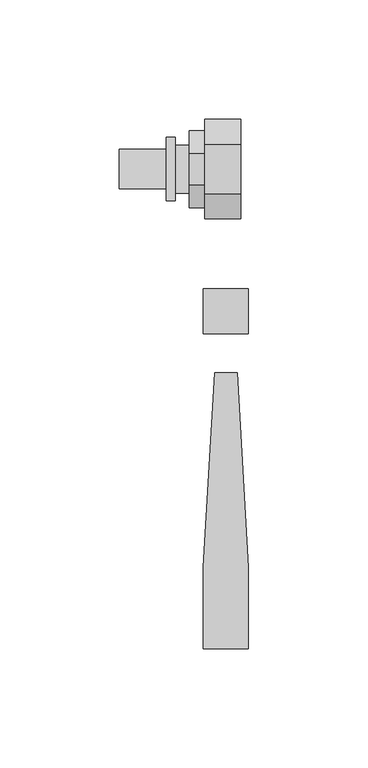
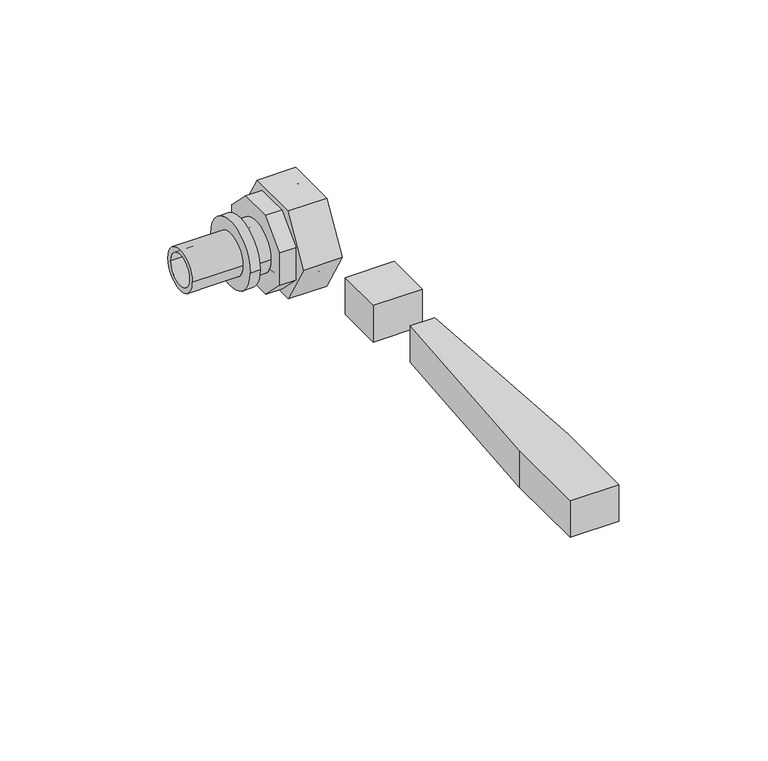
"""IFC4 building model written with IfcOpenShell, lengths in millimetres: pipe fitting geometry, RAUTITAN_LX_C.Coupling : RTI LX/PX C.C DN."""

import ifcopenshell
import ifcopenshell.guid

model = None  # the IFC model being written
_history = None  # IfcOwnerHistory: only IFC2X3 demands one
_inside = {}  # id of a spatial element -> (the spatial element, [elements in it])
_under = {}  # id of a project, library or spatial element -> (it, [spatial elements below it])
_declared = {}  # id of a project -> (the project, [libraries it declares])
_typed = {}  # id of a type object -> (the type object, [elements of that type])
_made_of = {}  # id of a material, layer set ... -> (it, [elements and type objects made of it])


def new_model(schema):
    """Start an empty IFC model of exactly this schema.

    Asked for "IFC4X3", IfcOpenShell would pick the latest addendum, in which some entities
    have other attributes; the version numbers below select the first issue.
    IFC2X3 requires an IfcOwnerHistory on every rooted entity: one is made here for all.
    """
    global model, _history
    if schema == "IFC4X3":
        model = ifcopenshell.file(schema_version=(4, 3, 0, 0))
    else:
        model = ifcopenshell.file(schema=schema)
    _inside.clear()
    _under.clear()
    _declared.clear()
    _typed.clear()
    _made_of.clear()
    _history = None
    if model.schema == "IFC2X3":
        org = make("IfcOrganization", Name="unknown")
        user = make(
            "IfcPersonAndOrganization",
            ThePerson=make("IfcPerson", FamilyName="unknown"),
            TheOrganization=org,
        )
        app = make(
            "IfcApplication",
            ApplicationDeveloper=org,
            Version="unknown",
            ApplicationFullName="unknown",
            ApplicationIdentifier="unknown",
        )
        _history = make(
            "IfcOwnerHistory",
            OwningUser=user,
            OwningApplication=app,
            ChangeAction="ADDED",
            CreationDate=0,
        )
    return model


def make(cls, **values):
    """One entity of the class cls with the attributes given. An attribute that is None is left unset."""
    return model.create_entity(
        cls, **{name: value for name, value in values.items() if value is not None}
    )


def rooted(cls, **values):
    """An entity with a GlobalId (a new one), such as an element, a storey or a relation."""
    return make(cls, GlobalId=ifcopenshell.guid.new(), OwnerHistory=_history, **values)


def si_unit(unit_type, name, prefix=None):
    """IfcSIUnit, for example si_unit("LENGTHUNIT", "METRE", prefix="MILLI")."""
    return make("IfcSIUnit", UnitType=unit_type, Prefix=prefix, Name=name)


def assignment(units):
    """IfcUnitAssignment: the units of a project."""
    return None if units is None else make("IfcUnitAssignment", Units=units)


def point(xyz):
    """IfcCartesianPoint."""
    return None if xyz is None else make("IfcCartesianPoint", Coordinates=xyz)


def direction(xyz):
    """IfcDirection."""
    return None if xyz is None else make("IfcDirection", DirectionRatios=xyz)


def frame(location, z_axis=None, x_axis=None):
    """IfcAxis2Placement3D, a coordinate frame: its origin and axes. An axis left out is left unset."""
    return make(
        "IfcAxis2Placement3D",
        Location=point(location),
        Axis=direction(z_axis),
        RefDirection=direction(x_axis),
    )


def frame_2d(location, x_axis=None):
    """IfcAxis2Placement2D, a coordinate frame in the plane: its origin and x axis."""
    return make(
        "IfcAxis2Placement2D", Location=point(location), RefDirection=direction(x_axis)
    )


def origin():
    """The frame at (0, 0, 0) with its axes left unset."""
    return frame((0.0, 0.0, 0.0))


def origin_with_axes():
    """The frame at (0, 0, 0) with the z axis (0, 0, 1) and the x axis (1, 0, 0) written out."""
    return frame((0.0, 0.0, 0.0), z_axis=(0.0, 0.0, 1.0), x_axis=(1.0, 0.0, 0.0))


def origin_2d():
    """The frame at (0, 0) in the plane with its x axis left unset."""
    return frame_2d((0.0, 0.0))


def place(relative_to, where):
    """IfcLocalPlacement: puts the frame where relative to a parent placement (None: the world)."""
    return make(
        "IfcLocalPlacement", PlacementRelTo=relative_to, RelativePlacement=where
    )


def context(
    kind, dimensions, precision=None, world=None, true_north=None, identifier=None
):
    """IfcGeometricRepresentationContext, for example the 3D "Model" context."""
    return make(
        "IfcGeometricRepresentationContext",
        ContextIdentifier=identifier,
        ContextType=kind,
        CoordinateSpaceDimension=dimensions,
        Precision=precision,
        WorldCoordinateSystem=world,
        TrueNorth=true_north,
    )


def project(units=None, contexts=None):
    """IfcProject with its units and contexts."""
    return rooted(
        "IfcProject",
        Name="project",
        RepresentationContexts=contexts,
        UnitsInContext=assignment(units),
    )


def spatial(cls, under=None, at=None, **own):
    """A site, building, storey or space (cls), placed at a placement, below another one or the project."""
    s = rooted(cls, ObjectPlacement=at, **own)
    if under is not None:
        _under.setdefault(under.id(), (under, []))[1].append(s)
    return s


def polyline(points):
    """IfcPolyline through the points."""
    return make("IfcPolyline", Points=[point(p) for p in points])


def circle_curve(where, radius):
    """IfcCircle in the frame where."""
    return make("IfcCircle", Position=where, Radius=radius)


def trimmed(basis, trim1, trim2, sense, master):
    """IfcTrimmedCurve: the piece of a basis curve between two trims."""
    return make(
        "IfcTrimmedCurve",
        BasisCurve=basis,
        Trim1=trim1,
        Trim2=trim2,
        SenseAgreement=sense,
        MasterRepresentation=master,
    )


def segment(curve, same_sense, transition):
    """IfcCompositeCurveSegment."""
    return make(
        "IfcCompositeCurveSegment",
        Transition=transition,
        SameSense=same_sense,
        ParentCurve=curve,
    )


def composite_curve(segments, self_intersect=None):
    """IfcCompositeCurve: segments joined end to end."""
    return make("IfcCompositeCurve", Segments=segments, SelfIntersect=self_intersect)


def outline(outer, holes=None, kind="AREA"):
    """IfcArbitraryClosedProfileDef: a profile drawn as a closed curve; with holes, ...WithVoids."""
    if holes is None:
        return make("IfcArbitraryClosedProfileDef", ProfileType=kind, OuterCurve=outer)
    return make(
        "IfcArbitraryProfileDefWithVoids",
        ProfileType=kind,
        OuterCurve=outer,
        InnerCurves=holes,
    )


def extrude(swept, where, along, depth):
    """IfcExtrudedAreaSolid: the profile swept, set in the frame where, extruded along a direction by depth."""
    return make(
        "IfcExtrudedAreaSolid",
        SweptArea=swept,
        Position=where,
        ExtrudedDirection=direction(along),
        Depth=depth,
    )


def shape(context_of_items, identifier, shape_type, items):
    """IfcShapeRepresentation: the items that make up one representation, for example the "Body"."""
    return make(
        "IfcShapeRepresentation",
        ContextOfItems=context_of_items,
        RepresentationIdentifier=identifier,
        RepresentationType=shape_type,
        Items=items,
    )


def source(mapping_origin, context_of_items, identifier, shape_type, items):
    """IfcRepresentationMap: a shape defined once, which mapped items show again and again."""
    return make(
        "IfcRepresentationMap",
        MappingOrigin=mapping_origin,
        MappedRepresentation=shape(context_of_items, identifier, shape_type, items),
    )


def transform(
    local_origin,
    x_axis=None,
    y_axis=None,
    z_axis=None,
    scale=None,
    scale2=None,
    scale3=None,
    uniform=True,
):
    """IfcCartesianTransformationOperator3D, or its non-uniform kind. x_axis, y_axis, z_axis: its Axis1, 2, 3."""
    if uniform:
        return make(
            "IfcCartesianTransformationOperator3D",
            Axis1=direction(x_axis),
            Axis2=direction(y_axis),
            LocalOrigin=point(local_origin),
            Scale=scale,
            Axis3=direction(z_axis),
        )
    return make(
        "IfcCartesianTransformationOperator3DnonUniform",
        Axis1=direction(x_axis),
        Axis2=direction(y_axis),
        LocalOrigin=point(local_origin),
        Scale=scale,
        Axis3=direction(z_axis),
        Scale2=scale2,
        Scale3=scale3,
    )


def mapped(mapping_source, mapping_target):
    """IfcMappedItem: shows the shape of a source again, moved by a transform."""
    return make(
        "IfcMappedItem", MappingSource=mapping_source, MappingTarget=mapping_target
    )


def made_of(thing, what):
    """Note that an element or type object is made of a material, layer set ...; save() writes the relation."""
    if what is not None:
        _made_of.setdefault(what.id(), (what, []))[1].append(thing)
    return thing


def element(
    cls,
    number,
    at=None,
    inside=None,
    cuts=None,
    type_object=None,
    material=None,
    context=None,
    identifier="Body",
    shape_type=None,
    held_by="IfcProductDefinitionShape",
    body=None,
    shapes=None,
    **own,
):
    """One element of the class cls, such as IfcWall. Its Tag is "e" and its number.

    at: its placement. inside: the storey or other place that contains it. cuts: it is an
    opening in that element (IfcRelVoidsElement). A single representation is given by context,
    identifier, shape_type and body (its items); several are given by shapes. held_by: the class
    of the entity that holds the representations. save() writes the other relations.
    """
    e = rooted(cls, Tag="e%d" % number, ObjectPlacement=at, **own)
    if body is not None:
        shapes = [shape(context, identifier, shape_type, body)]
    if shapes is not None:
        e.Representation = make(held_by, Representations=shapes)
    if inside is not None:
        _inside.setdefault(inside.id(), (inside, []))[1].append(e)
    if cuts is not None:
        rooted(
            "IfcRelVoidsElement", RelatingBuildingElement=cuts, RelatedOpeningElement=e
        )
    if type_object is not None:
        _typed.setdefault(type_object.id(), (type_object, []))[1].append(e)
    return made_of(e, material)


def aggregate(whole, parts):
    """IfcRelAggregates: a whole, such as a stair, and the parts it consists of."""
    return rooted("IfcRelAggregates", RelatingObject=whole, RelatedObjects=parts)


def save(model, path):
    """Write the relations noted so far, then the file.

    IfcRelAggregates (storeys below a building ...), IfcRelContainedInSpatialStructure (elements
    in a storey), IfcRelDefinesByType, IfcRelAssociatesMaterial and IfcRelDeclares: one each for
    every whole, place, type object, material and project.
    """
    for whole, parts in _under.values():
        aggregate(whole, parts)
    for where, things in _inside.values():
        rooted(
            "IfcRelContainedInSpatialStructure",
            RelatedElements=things,
            RelatingStructure=where,
        )
    for kind, things in _typed.values():
        rooted("IfcRelDefinesByType", RelatedObjects=things, RelatingType=kind)
    for what, things in _made_of.values():
        rooted("IfcRelAssociatesMaterial", RelatedObjects=things, RelatingMaterial=what)
    for by, libraries in _declared.values():
        rooted("IfcRelDeclares", RelatingContext=by, RelatedDefinitions=libraries)
    model.write(path)


def plane_surface(at):
    """IfcPlane: the flat surface through the origin of the frame at, square to its z axis."""
    return make("IfcPlane", Position=at)


def cylinder_surface(at, radius):
    """IfcCylindricalSurface: all points at the distance radius from the z axis of the frame at."""
    return make("IfcCylindricalSurface", Position=at, Radius=radius)


def revolved_surface(curve, axis_point, axis_direction):
    """IfcSurfaceOfRevolution: the curve turned about the line through axis_point along axis_direction."""
    return make(
        "IfcSurfaceOfRevolution",
        SweptCurve=make("IfcArbitraryOpenProfileDef", ProfileType="CURVE", Curve=curve),
        AxisPosition=make("IfcAxis1Placement", Location=point(axis_point), Axis=direction(axis_direction)),
    )


def advanced_brep(points, edges, surfaces, faces):
    """IfcAdvancedBrep: a solid bounded by faces that lie on surfaces and meet in shared edges.

    An edge is (start, end): straight between two places in points (the first is 0);
    or (start, end, curve); or (start, end, curve, False) where it runs against its curve.
    A face is (place in surfaces, loops), or (place, loops, False) where it looks against
    its surface's normal. A loop lists edges by number (the first is 1), with a minus sign
    where the edge is run from its end to its start. The first loop is the outer one.
    """
    corners = [point(p) for p in points]
    vertices = [make("IfcVertexPoint", VertexGeometry=c) for c in corners]
    made = []
    for start, end, *more in edges:
        made.append(
            make(
                "IfcEdgeCurve",
                EdgeStart=vertices[start],
                EdgeEnd=vertices[end],
                EdgeGeometry=more[0] if more else make("IfcPolyline", Points=[corners[start], corners[end]]),
                SameSense=more[1] if len(more) > 1 else True,
            )
        )
    hull = []
    for where, loops, *sense in faces:
        bounds = []
        for j, loop in enumerate(loops):
            ring = [make("IfcOrientedEdge", EdgeElement=made[abs(k) - 1], Orientation=k > 0) for k in loop]
            bounds.append(
                make(
                    "IfcFaceOuterBound" if j == 0 else "IfcFaceBound",
                    Bound=make("IfcEdgeLoop", EdgeList=ring),
                    Orientation=True,
                )
            )
        hull.append(make("IfcAdvancedFace", Bounds=bounds, FaceSurface=surfaces[where], SameSense=sense[0] if sense else True))
    return make("IfcAdvancedBrep", Outer=make("IfcClosedShell", CfsFaces=hull))


def pipe_fitting_ed985a5f(model_context):
    return source(origin(), model_context, "Body", "SolidModel", [
        extrude(outline(polyline([(10.3923048, -18.0), (-10.3923048, -18.0), (-20.7846097, 0.0), (-10.3923048, 18.0), (10.3923048, 18.0), (20.7846097, 0.0), (10.3923048, -18.0)]), holes=[composite_curve([segment(trimmed(circle_curve(origin_2d(), 15.0), [point((-15.0, 0.0))], [point((15.0, 0.0))], True, "CARTESIAN"), True, "CONTINUOUS"), segment(trimmed(circle_curve(origin_2d(), 15.0), [point((15.0, 0.0))], [point((-15.0, 0.0))], True, "CARTESIAN"), True, "CONTINUOUS")], self_intersect=False)]), frame((16.3, 0.0, 0.0), z_axis=(1.0, 0.0, 0.0), x_axis=(0.0, 1.0, 0.0)), (0.0, 0.0, 1.0), 15.0),
        advanced_brep(
        [(16.3, 6.689549, -16.15), (9.8, 6.689549, -16.15), (9.8, 16.15, -6.689549), (16.3, 16.15, -6.689549), (9.8, 16.15, 6.689549), (16.3, 16.15, 6.689549), (9.8, 6.689549, 16.15), (16.3, 6.689549, 16.15), (16.3, -6.689549, 16.15), (9.8, -6.689549, 16.15), (9.8, -16.15, 6.689549), (16.3, -16.15, 6.689549), (9.8, -16.15, -6.689549), (16.3, -16.15, -6.689549), (9.8, -6.689549, -16.15), (16.3, -6.689549, -16.15), (16.3, 15.15, 0.0), (16.3, -15.15, 0.0), (9.8, -10.05, 0.0), (9.8, 10.05, 0.0), (-19.5, 6.25, 0.0), (-19.5, -6.25, 0.0), (9.8, -6.25, 0.0), (9.8, 6.25, 0.0), (0.0, 8.25, 0.0), (0.0, -8.25, 0.0), (-19.5, -8.25, 0.0), (-19.5, 8.25, 0.0), (3.8, 13.25, 0.0), (3.8, -13.25, 0.0), (0.0, -13.25, 0.0), (0.0, 13.25, 0.0), (3.8, -10.05, 0.0), (3.8, 10.05, 0.0), (28.3, 15.15, 0.0), (28.3, -15.15, 0.0), (14.8, 11.25, 0.0), (14.8, -11.25, 0.0), (28.3, -11.25, 0.0), (28.3, 11.25, 0.0)],
        [
            (0, 1),
            (1, 2),
            (2, 3),
            (3, 0),
            (2, 4),
            (4, 5),
            (5, 3),
            (4, 6),
            (6, 7),
            (7, 5),
            (8, 9),
            (9, 10),
            (10, 11),
            (11, 8),
            (10, 12),
            (12, 13),
            (13, 11),
            (12, 14),
            (14, 15),
            (15, 13),
            (6, 9),
            (8, 7),
            (0, 15),
            (14, 1),
            (16, 17, circle_curve(frame((16.3, 0.0, 0.0), z_axis=(-1.0, 0.0, 0.0), x_axis=(0.0, -1.0, 0.0)), 15.15)),
            (17, 16, circle_curve(frame((16.3, 0.0, 0.0), z_axis=(-1.0, 0.0, 0.0), x_axis=(0.0, 1.0, 0.0)), 15.15)),
            (18, 19, circle_curve(frame((9.8, 0.0, 0.0), z_axis=(1.0, 0.0, 0.0), x_axis=(0.0, -1.0, 0.0)), 10.05)),
            (19, 18, circle_curve(frame((9.8, 0.0, 0.0), z_axis=(1.0, 0.0, 0.0), x_axis=(0.0, 1.0, 0.0)), 10.05)),
            (20, 21, circle_curve(frame((-19.5, 0.0, 0.0), z_axis=(-1.0, 0.0, 0.0), x_axis=(0.0, -1.0, 0.0)), 6.25)),
            (21, 22),
            (22, 23, circle_curve(frame((9.8, 0.0, 0.0), z_axis=(1.0, 0.0, 0.0), x_axis=(0.0, -1.0, 0.0)), 6.25)),
            (23, 20),
            (24, 25, circle_curve(frame((0.0, 0.0, 0.0), z_axis=(-1.0, 0.0, 0.0), x_axis=(0.0, -1.0, 0.0)), 8.25)),
            (25, 26),
            (26, 27, circle_curve(frame((-19.5, 0.0, 0.0), z_axis=(1.0, 0.0, 0.0), x_axis=(0.0, -1.0, 0.0)), 8.25)),
            (27, 24),
            (28, 29, circle_curve(frame((3.8, 0.0, 0.0), z_axis=(-1.0, 0.0, 0.0), x_axis=(0.0, -1.0, 0.0)), 13.25)),
            (29, 30),
            (30, 31, circle_curve(frame((0.0, 0.0, 0.0), z_axis=(1.0, 0.0, 0.0), x_axis=(0.0, -1.0, 0.0)), 13.25)),
            (31, 28),
            (18, 32),
            (32, 33, circle_curve(frame((3.8, 0.0, 0.0), z_axis=(1.0, 0.0, 0.0), x_axis=(0.0, -1.0, 0.0)), 10.05)),
            (33, 19),
            (34, 35, circle_curve(frame((28.3, 0.0, 0.0), z_axis=(-1.0, 0.0, 0.0), x_axis=(0.0, -1.0, 0.0)), 15.15)),
            (35, 17),
            (16, 34),
            (36, 37, circle_curve(frame((14.8, 0.0, 0.0), z_axis=(-1.0, 0.0, 0.0), x_axis=(0.0, -1.0, 0.0)), 11.25)),
            (37, 38),
            (38, 39, circle_curve(frame((28.3, 0.0, 0.0), z_axis=(1.0, 0.0, 0.0), x_axis=(0.0, -1.0, 0.0)), 11.25)),
            (39, 36),
            (22, 37),
            (36, 23),
            (21, 20, circle_curve(frame((-19.5, 0.0, 0.0), z_axis=(-1.0, 0.0, 0.0), x_axis=(0.0, 1.0, 0.0)), 6.25)),
            (23, 22, circle_curve(frame((9.8, 0.0, 0.0), z_axis=(1.0, 0.0, 0.0), x_axis=(0.0, 1.0, 0.0)), 6.25)),
            (26, 27, circle_curve(frame((-19.5, 0.0, 0.0), z_axis=(-1.0, 0.0, 0.0), x_axis=(0.0, 1.0, 0.0)), 8.25)),
            (25, 24, circle_curve(frame((0.0, 0.0, 0.0), z_axis=(-1.0, 0.0, 0.0), x_axis=(0.0, 1.0, 0.0)), 8.25)),
            (30, 31, circle_curve(frame((0.0, 0.0, 0.0), z_axis=(-1.0, 0.0, 0.0), x_axis=(0.0, 1.0, 0.0)), 13.25)),
            (29, 28, circle_curve(frame((3.8, 0.0, 0.0), z_axis=(-1.0, 0.0, 0.0), x_axis=(0.0, 1.0, 0.0)), 13.25)),
            (32, 33, circle_curve(frame((3.8, 0.0, 0.0), z_axis=(-1.0, 0.0, 0.0), x_axis=(0.0, 1.0, 0.0)), 10.05)),
            (35, 34, circle_curve(frame((28.3, 0.0, 0.0), z_axis=(-1.0, 0.0, 0.0), x_axis=(0.0, 1.0, 0.0)), 15.15)),
            (38, 39, circle_curve(frame((28.3, 0.0, 0.0), z_axis=(-1.0, 0.0, 0.0), x_axis=(0.0, 1.0, 0.0)), 11.25)),
            (37, 36, circle_curve(frame((14.8, 0.0, 0.0), z_axis=(-1.0, 0.0, 0.0), x_axis=(0.0, 1.0, 0.0)), 11.25)),
        ],
        [
            plane_surface(frame((9.8, 6.689549, -16.15), z_axis=(0.0, 0.7071067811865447, -0.7071067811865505), x_axis=(0.0, 0.7071067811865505, 0.7071067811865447))),
            plane_surface(frame((9.8, 16.15, -6.689549), z_axis=(0.0, 1.0, 0.0), x_axis=(0.0, 0.0, 1.0))),
            plane_surface(frame((9.8, 16.15, 6.689549), z_axis=(0.0, 0.7071067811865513, 0.7071067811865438), x_axis=(0.0, -0.7071067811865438, 0.7071067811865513))),
            plane_surface(frame((9.8, -6.689549, 16.15), z_axis=(0.0, -0.707106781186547, 0.707106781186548), x_axis=(0.0, -0.707106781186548, -0.707106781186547))),
            plane_surface(frame((9.8, -16.15, 6.689549), z_axis=(0.0, -1.0, 0.0), x_axis=(0.0, 0.0, -1.0))),
            plane_surface(frame((9.8, -16.15, -6.689549), z_axis=(0.0, -0.7071067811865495, -0.7071067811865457), x_axis=(0.0, 0.7071067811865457, -0.7071067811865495))),
            plane_surface(frame((9.8, 6.689549, 16.15), z_axis=(0.0, 0.0, 1.0), x_axis=(0.0, -1.0, 0.0))),
            plane_surface(frame((9.8, -6.689549, -16.15), z_axis=(0.0, 0.0, -1.0), x_axis=(0.0, 1.0, 0.0))),
            plane_surface(frame((16.3, -6.689549, -16.15), z_axis=(1.0, 0.0, 0.0), x_axis=(0.0, 1.0, 0.0))),
            plane_surface(frame((9.8, -5.4469083, -13.15), z_axis=(-1.0, 0.0, 0.0), x_axis=(0.0, 1.0, 0.0))),
            revolved_surface(polyline([(9.8, -6.25, 0.0), (-19.5, -6.25, 0.0)]), (0.0, 0.0, 0.0), (1.0, 0.0, 0.0)),
            cylinder_surface(frame((0.0, 0.0, 0.0), z_axis=(1.0, 0.0, 0.0), x_axis=(0.0, -1.0, 0.0)), 8.25),
            cylinder_surface(frame((0.0, 0.0, 0.0), z_axis=(1.0, 0.0, 0.0), x_axis=(0.0, -1.0, 0.0)), 13.25),
            cylinder_surface(frame((0.0, 0.0, 0.0), z_axis=(1.0, 0.0, 0.0), x_axis=(0.0, -1.0, 0.0)), 10.05),
            cylinder_surface(frame((0.0, 0.0, 0.0), z_axis=(1.0, 0.0, 0.0), x_axis=(0.0, -1.0, 0.0)), 15.15),
            revolved_surface(polyline([(28.3, -11.25, 0.0), (14.8, -11.25, 0.0)]), (0.0, 0.0, 0.0), (1.0, 0.0, 0.0)),
            revolved_surface(polyline([(14.8, -11.25, 0.0), (9.8, -6.25, 0.0)]), (0.0, 0.0, 0.0), (1.0, 0.0, 0.0)),
            revolved_surface(polyline([(9.8, 6.25, 0.0), (-19.5, 6.25, 0.0)]), (0.0, 0.0, 0.0), (1.0, 0.0, 0.0)),
            plane_surface(frame((-19.5, 0.0, 0.0), z_axis=(-1.0, 0.0, 0.0), x_axis=(0.0, 1.0, 0.0))),
            cylinder_surface(frame((0.0, 0.0, 0.0), z_axis=(1.0, 0.0, 0.0), x_axis=(0.0, 1.0, 0.0)), 8.25),
            plane_surface(frame((0.0, 0.0, 0.0), z_axis=(-1.0, 0.0, 0.0), x_axis=(0.0, 1.0, 0.0))),
            cylinder_surface(frame((0.0, 0.0, 0.0), z_axis=(1.0, 0.0, 0.0), x_axis=(0.0, 1.0, 0.0)), 13.25),
            plane_surface(frame((3.8, 0.0, 0.0), z_axis=(1.0, 0.0, 0.0), x_axis=(0.0, 1.0, 0.0))),
            cylinder_surface(frame((0.0, 0.0, 0.0), z_axis=(1.0, 0.0, 0.0), x_axis=(0.0, 1.0, 0.0)), 10.05),
            cylinder_surface(frame((0.0, 0.0, 0.0), z_axis=(1.0, 0.0, 0.0), x_axis=(0.0, 1.0, 0.0)), 15.15),
            plane_surface(frame((28.3, 0.0, 0.0), z_axis=(1.0, 0.0, 0.0), x_axis=(0.0, 1.0, 0.0))),
            revolved_surface(polyline([(28.3, 11.25, 0.0), (14.8, 11.25, 0.0)]), (0.0, 0.0, 0.0), (1.0, 0.0, 0.0)),
            revolved_surface(polyline([(14.8, 11.25, 0.0), (9.8, 6.25, 0.0)]), (0.0, 0.0, 0.0), (1.0, 0.0, 0.0)),
        ],
        [
            (0, [[1, 2, 3, 4]]),
            (1, [[-3, 5, 6, 7]]),
            (2, [[-6, 8, 9, 10]]),
            (3, [[11, 12, 13, 14]]),
            (4, [[-13, 15, 16, 17]]),
            (5, [[-16, 18, 19, 20]]),
            (6, [[-9, 21, -11, 22]]),
            (7, [[-1, 23, -19, 24]]),
            (8, [[-4, -7, -10, -22, -14, -17, -20, -23], [25, 26]]),
            (9, [[-2, -24, -18, -15, -12, -21, -8, -5], [27, 28]]),
            (10, [[29, 30, 31, 32]]),
            (11, [[33, 34, 35, 36]]),
            (12, [[37, 38, 39, 40]]),
            (13, [[-27, 41, 42, 43]]),
            (14, [[44, 45, -25, 46]]),
            (15, [[47, 48, 49, 50]]),
            (16, [[-31, 51, -47, 52]]),
            (17, [[-30, 53, -32, 54]]),
            (18, [[-35, 55], [-29, -53]]),
            (19, [[-34, 56, -36, -55]]),
            (20, [[-39, 57], [-33, -56]]),
            (21, [[-38, 58, -40, -57]]),
            (22, [[-37, -58], [-42, 59]]),
            (23, [[-41, -28, -43, -59]]),
            (24, [[60, -46, -26, -45]]),
            (25, [[-44, -60], [-49, 61]]),
            (26, [[-48, 62, -50, -61]]),
            (27, [[-51, -54, -52, -62]]),
        ],
    ),
        extrude(outline(polyline([(29.7088895, -85.3166715), (34.4177791, -166.6553807), (34.4177791, -200.6844652), (15.5822209, -200.6844652), (15.5822209, -166.6553807), (20.2911105, -85.3166715), (29.7088895, -85.3166715)])), origin_with_axes(), (0.0, 0.0, 1.0), 15.0),
        extrude(outline(polyline([(34.4177791, -50.0), (34.4177791, -68.8355582), (15.5822209, -68.8355582), (15.5822209, -50.0), (34.4177791, -50.0)])), origin_with_axes(), (0.0, 0.0, 1.0), 15.0),
    ])


if __name__ == "__main__":
    model = new_model("IFC4")
    model_context = context("Model", 3, world=origin())
    ifc_project = project(units=[si_unit("LENGTHUNIT", "METRE", prefix="MILLI")], contexts=[model_context])
    site = spatial("IfcSite", under=ifc_project)
    building = spatial("IfcBuilding", under=site)
    placement = place(None, origin())
    pipe_fitting_shape = pipe_fitting_ed985a5f(model_context)
    element("IfcPipeFitting", 1, ObjectType="RAUTITAN_LX_C.Coupling : RTI LX/PX C.C DN", at=placement, inside=building, context=model_context, shape_type="MappedRepresentation", body=[
        mapped(pipe_fitting_shape, transform((0.0, 0.0, 0.0), x_axis=(1.0, 0.0, 0.0), y_axis=(0.0, 1.0, 0.0), z_axis=(0.0, 0.0, 1.0))),
    ])
    save(model, "model.ifc")
